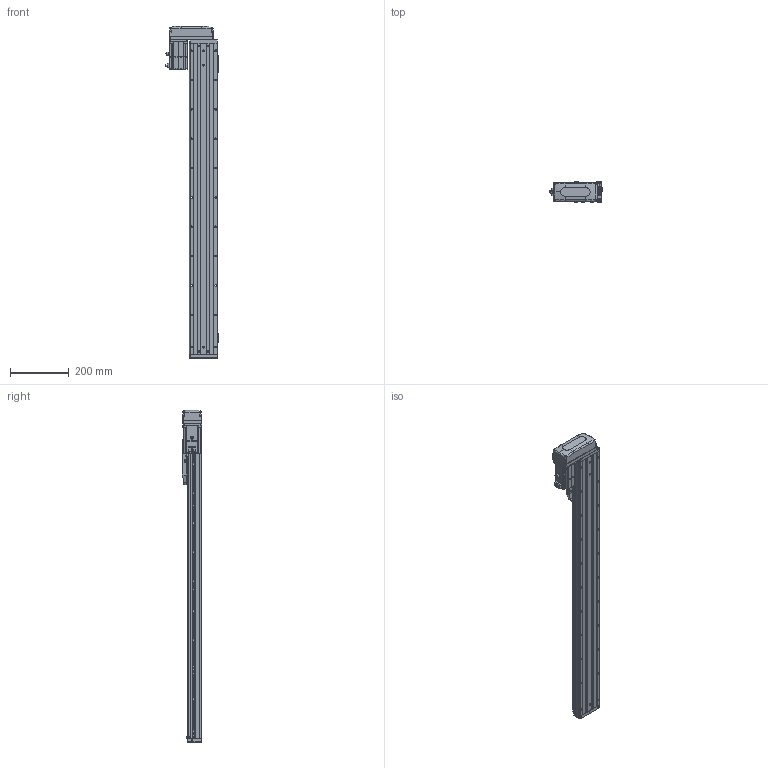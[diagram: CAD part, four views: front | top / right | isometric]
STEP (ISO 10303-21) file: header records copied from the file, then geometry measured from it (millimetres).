
FILE_DESCRIPTION (( 'STEP AP203' ), '1' );
FILE_NAME ('CTHA100-850-BL-M20-C4L.step', '2022-07-06T09:10:16', ( '微软用户' ), ( '微软中国' ), 'SwSTEP 2.0', 'SolidWorks 2020', '' );
FILE_SCHEMA (( 'CONFIG_CONTROL_DESIGN' ));
Length unit declared in the file: millimetre
Products named in the file (19): CTHA86-033; EE_SX911P_R; _X2_4E0983F1_X0_200W_1; CTHA100-850-BL-M20-C4L; CTHA60-017; CTHA100-002; CTHA60-021; CTHA100-031; KTHA100-001_1060; GBT77-2000 M3×3; CTHA86-030; KTHA100-004; GBT 70.1-M3℅6; GBT 70.3-M3℅6; KTHA100-005; GBT70.1 M5℅16; CTHA86-015-1_CTHA86-015-2; GB¨uT 70.2-M3¡Á5_M3¡Á6; CTHA60-016
Assembly tree (64 placements, depth 2):
  CTHA100-850-BL-M20-C4L
    KTHA100-001_1060
    KTHA100-004
    KTHA100-005
    GB¨uT 70.2-M3¡Á5_M3¡Á6  x10
    EE_SX911P_R  x3
    CTHA60-017  x3
    CTHA60-021  x2
    GBT77-2000 M3×3  x6
    GBT 70.1-M3℅6  x10
    GBT70.1 M5℅16  x14
    CTHA60-016  x2
    _X2_4E0983F1_X0_200W_1
    CTHA100-002
    CTHA100-031
    CTHA86-030  x2
    GBT 70.3-M3℅6  x4
    CTHA86-015-1_CTHA86-015-2
    CTHA86-033
Bounding box: 178.52 x 68 x 1131 mm (x, y, z)
Volume: 4581712.7 mm3; surface area: 762445.7 mm2
Topology: 66 solids, 66 shells, 2729 faces, 6583 edges, 4084 vertices
Faces by surface type: plane 1428, cylinder 719, cone 359, torus 124, bspline 75, sphere 24
Entity records: 47930 total; most frequent: CARTESIAN_POINT 9371, DIRECTION 7424, ORIENTED_EDGE 7282, EDGE_CURVE 3641, AXIS2_PLACEMENT_3D 2509, LINE 2406, VECTOR 2406, VERTEX_POINT 2304
